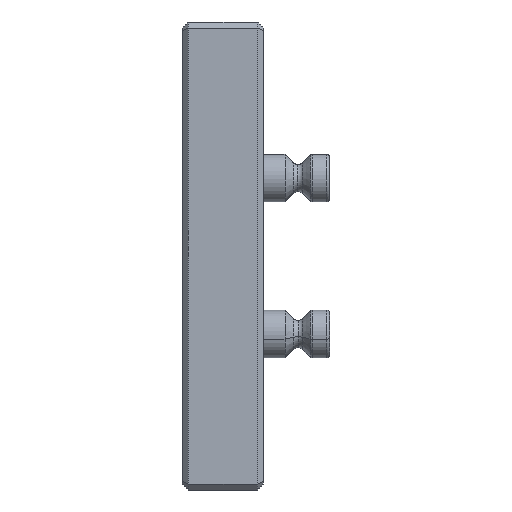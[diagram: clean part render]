
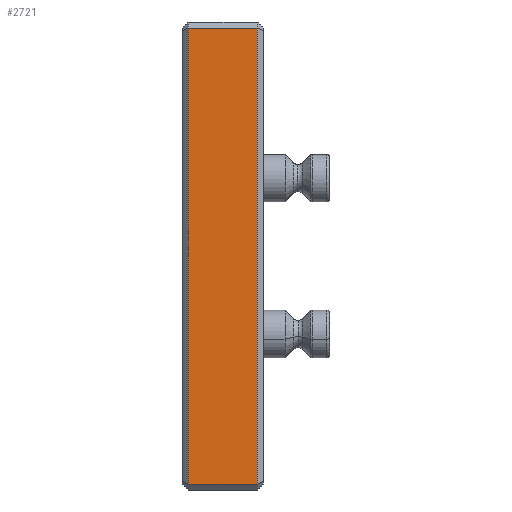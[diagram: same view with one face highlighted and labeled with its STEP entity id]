
A CAD part, left-side view. The second image highlights one B-rep face of the part: STEP entity #2721.
In plain terms, the highlighted planar face has unit normal (-1, 0, 0).
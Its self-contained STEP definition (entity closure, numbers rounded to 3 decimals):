
#220 = VERTEX_POINT ( 'NONE', #3045 ) ;
#227 = VERTEX_POINT ( 'NONE', #3051 ) ;
#322 = VERTEX_POINT ( 'NONE', #3114 ) ;
#795 = AXIS2_PLACEMENT_3D ( 'NONE', #1178, #1185, #1186 ) ;
#1031 = VECTOR ( 'NONE', #1799, 1000. ) ;
#1041 = VECTOR ( 'NONE', #1811, 1000. ) ;
#1088 = VECTOR ( 'NONE', #3892, 1000. ) ;
#1108 = VECTOR ( 'NONE', #1839, 1000. ) ;
#1178 = CARTESIAN_POINT ( 'NONE',  ( -78., 27., 78. ) ) ;
#1182 = FACE_OUTER_BOUND ( 'NONE', #3659, .T. ) ;
#1183 = PLANE ( 'NONE',  #795 ) ;
#1185 = DIRECTION ( 'NONE',  ( 1., 0., 0. ) ) ;
#1186 = DIRECTION ( 'NONE',  ( 0., -1., 0. ) ) ;
#1797 = LINE ( 'NONE', #1798, #1031 ) ;
#1798 = CARTESIAN_POINT ( 'NONE',  ( -78., 27., -76. ) ) ;
#1799 = DIRECTION ( 'NONE',  ( 0., -1., 0. ) ) ;
#1809 = LINE ( 'NONE', #1810, #1041 ) ;
#1810 = CARTESIAN_POINT ( 'NONE',  ( -78., 2., 76. ) ) ;
#1811 = DIRECTION ( 'NONE',  ( 0., 0., 1. ) ) ;
#1837 = LINE ( 'NONE', #1838, #1108 ) ;
#1838 = CARTESIAN_POINT ( 'NONE',  ( -78., 27., 76. ) ) ;
#1839 = DIRECTION ( 'NONE',  ( 0., 1., 0. ) ) ;
#2035 = CARTESIAN_POINT ( 'NONE',  ( -78., 2., -76. ) ) ;
#2721 = ADVANCED_FACE ( 'NONE', ( #1182 ), #1183, .F. ) ;
#3045 = CARTESIAN_POINT ( 'NONE',  ( -78., 2., 76. ) ) ;
#3051 = CARTESIAN_POINT ( 'NONE',  ( -78., 25., 76. ) ) ;
#3114 = CARTESIAN_POINT ( 'NONE',  ( -78., 25., -76. ) ) ;
#3659 = EDGE_LOOP ( 'NONE', ( #4210, #4178, #4310, #4306 ) ) ;
#3869 = LINE ( 'NONE', #3887, #1088 ) ;
#3887 = CARTESIAN_POINT ( 'NONE',  ( -78., 25., 78. ) ) ;
#3892 = DIRECTION ( 'NONE',  ( 0., 0., -1. ) ) ;
#3979 = EDGE_CURVE ( 'NONE', #227, #322, #3869, .T. ) ;
#4178 = ORIENTED_EDGE ( 'NONE', *, *, #3979, .T. ) ;
#4210 = ORIENTED_EDGE ( 'NONE', *, *, #4380, .T. ) ;
#4306 = ORIENTED_EDGE ( 'NONE', *, *, #4370, .T. ) ;
#4310 = ORIENTED_EDGE ( 'NONE', *, *, #4366, .T. ) ;
#4366 = EDGE_CURVE ( 'NONE', #322, #4435, #1797, .T. ) ;
#4370 = EDGE_CURVE ( 'NONE', #4435, #220, #1809, .T. ) ;
#4380 = EDGE_CURVE ( 'NONE', #220, #227, #1837, .T. ) ;
#4435 = VERTEX_POINT ( 'NONE', #2035 ) ;
